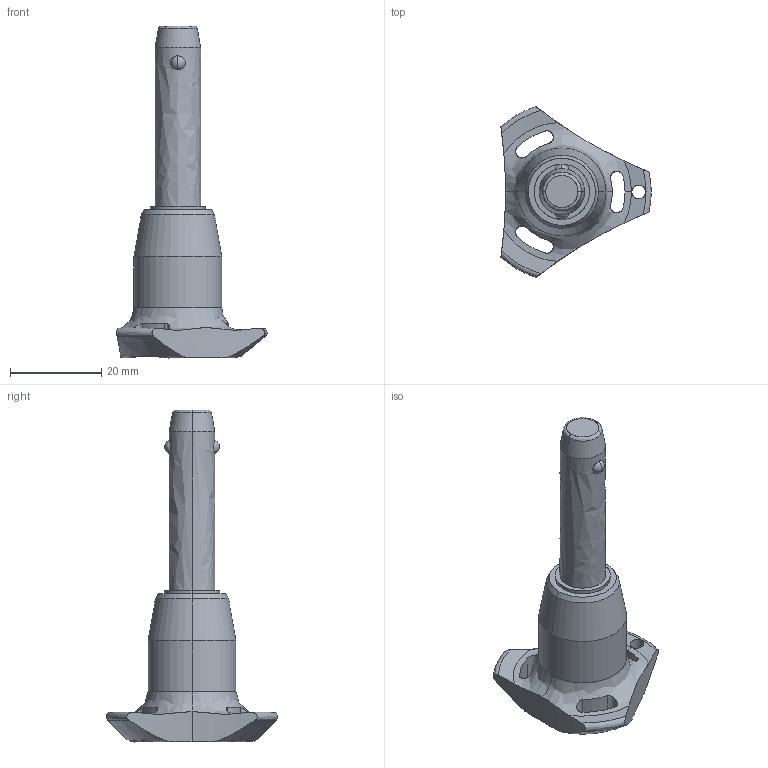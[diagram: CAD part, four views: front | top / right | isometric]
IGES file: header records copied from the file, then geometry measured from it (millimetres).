
Start section: SolidWorks IGES file using analytic representation for surfaces
Global section: file name: C:\Users\ianosborn\Desktop\QR1734_v2\QR1734_v2_20251113_IGES\QR1734.M10-030-S.igs; native system: SolidWorks 2019; preprocessor: SolidWorks 2019; author: IanOsborn; date: 251112.142431; units: millimetre
Bounding box: 33 x 37.51 x 72.9 mm (x, y, z)
Surface area: 5106.9 mm2 (no closed solid volume)
Topology: 0 solids, 0 shells, 65 faces, 1282 edges, 1278 vertices
Faces by surface type: revolution 50, bspline 15
